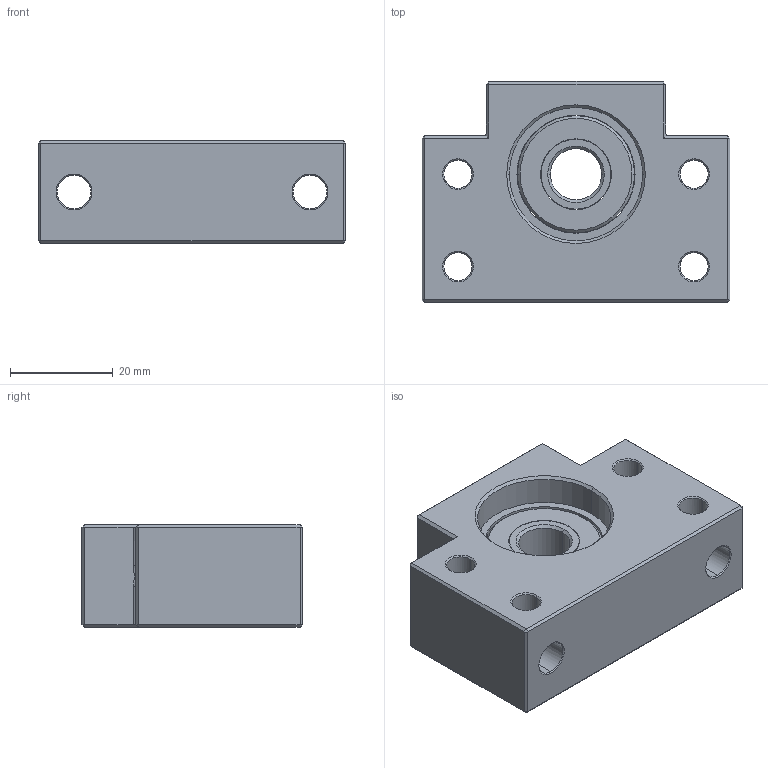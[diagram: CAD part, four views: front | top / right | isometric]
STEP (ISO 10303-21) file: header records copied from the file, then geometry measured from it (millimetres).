
FILE_DESCRIPTION (( 'STEP AP214' ), '1' );
FILE_NAME ('BF12.STEP', '2020-11-10T11:44:58', ( '' ), ( '' ), 'SwSTEP 2.0', 'SolidWorks 2018', '' );
FILE_SCHEMA (( 'AUTOMOTIVE_DESIGN' ));
Length unit declared in the file: millimetre
Products named in the file (1): BF12
Bounding box: 60 x 43.1 x 20 mm (x, y, z)
Volume: 35358.9 mm3; surface area: 13243.9 mm2
Topology: 3 solids, 3 shells, 222 faces, 561 edges, 350 vertices
Faces by surface type: plane 114, cylinder 42, bspline 34, cone 32
Entity records: 10291 total; most frequent: CARTESIAN_POINT 3818, ORIENTED_EDGE 1122, DIRECTION 933, EDGE_CURVE 561, VECTOR 355, LINE 355, VERTEX_POINT 350, AXIS2_PLACEMENT_3D 289
